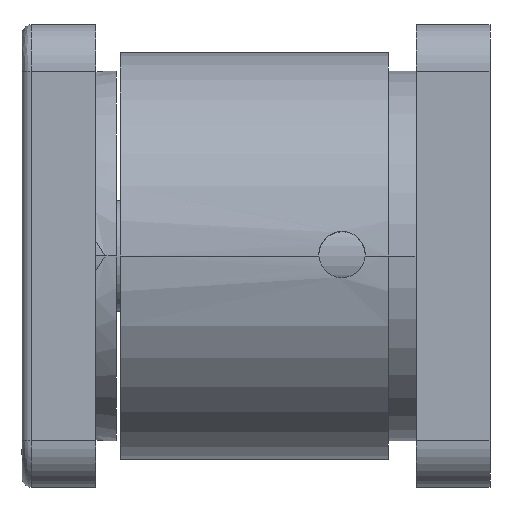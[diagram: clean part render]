
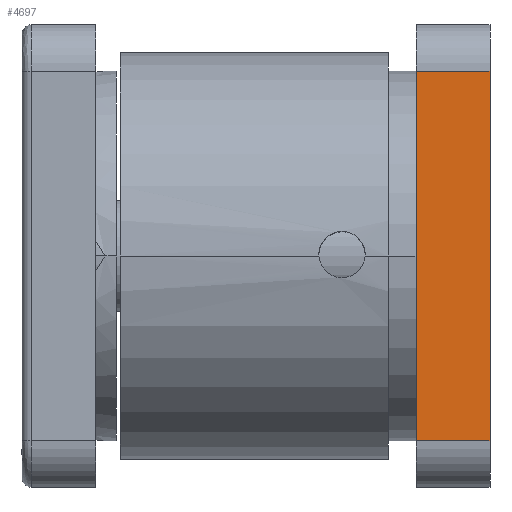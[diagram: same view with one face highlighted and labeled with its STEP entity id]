
A CAD part, left-side view. The second image highlights one B-rep face of the part: STEP entity #4697.
In plain terms, the highlighted planar face has unit normal (1, 0, 0).
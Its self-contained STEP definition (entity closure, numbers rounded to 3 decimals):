
#90 = CARTESIAN_POINT ( 'NONE',  ( -12.5, 2., 12.5 ) ) ;
#531 = LINE ( 'NONE', #944, #750 ) ;
#611 = CARTESIAN_POINT ( 'NONE',  ( -12.5, -2., 10. ) ) ;
#667 = VERTEX_POINT ( 'NONE', #2738 ) ;
#745 = CARTESIAN_POINT ( 'NONE',  ( -12.5, 2., 10. ) ) ;
#750 = VECTOR ( 'NONE', #5451, 1000. ) ;
#896 = CARTESIAN_POINT ( 'NONE',  ( -12.5, 2., -10. ) ) ;
#944 = CARTESIAN_POINT ( 'NONE',  ( -12.5, 2., -12.5 ) ) ;
#1009 = ORIENTED_EDGE ( 'NONE', *, *, #2480, .T. ) ;
#1221 = VECTOR ( 'NONE', #1734, 1000. ) ;
#1612 = PLANE ( 'NONE',  #2637 ) ;
#1714 = VERTEX_POINT ( 'NONE', #745 ) ;
#1734 = DIRECTION ( 'NONE',  ( 0., -1., 0. ) ) ;
#1943 = EDGE_CURVE ( 'NONE', #1714, #4667, #531, .T. ) ;
#2093 = DIRECTION ( 'NONE',  ( 1., 0., 0. ) ) ;
#2112 = EDGE_CURVE ( 'NONE', #3222, #667, #4167, .T. ) ;
#2226 = CARTESIAN_POINT ( 'NONE',  ( -12.5, -2., 12.5 ) ) ;
#2480 = EDGE_CURVE ( 'NONE', #1714, #3222, #3864, .T. ) ;
#2567 = DIRECTION ( 'NONE',  ( 0., 0., -1. ) ) ;
#2637 = AXIS2_PLACEMENT_3D ( 'NONE', #90, #2093, #2567 ) ;
#2728 = EDGE_CURVE ( 'NONE', #667, #4667, #3396, .T. ) ;
#2738 = CARTESIAN_POINT ( 'NONE',  ( -12.5, -2., -10. ) ) ;
#3222 = VERTEX_POINT ( 'NONE', #611 ) ;
#3319 = ORIENTED_EDGE ( 'NONE', *, *, #2728, .T. ) ;
#3396 = LINE ( 'NONE', #896, #3623 ) ;
#3623 = VECTOR ( 'NONE', #5871, 1000. ) ;
#3701 = ORIENTED_EDGE ( 'NONE', *, *, #2112, .T. ) ;
#3864 = LINE ( 'NONE', #6225, #1221 ) ;
#4167 = LINE ( 'NONE', #2226, #5805 ) ;
#4210 = DIRECTION ( 'NONE',  ( 0., 0., -1. ) ) ;
#4667 = VERTEX_POINT ( 'NONE', #6431 ) ;
#4697 = ADVANCED_FACE ( 'NONE', ( #5438 ), #1612, .T. ) ;
#5438 = FACE_OUTER_BOUND ( 'NONE', #5902, .T. ) ;
#5451 = DIRECTION ( 'NONE',  ( 0., 0., -1. ) ) ;
#5805 = VECTOR ( 'NONE', #4210, 1000. ) ;
#5871 = DIRECTION ( 'NONE',  ( 0., 1., 0. ) ) ;
#5902 = EDGE_LOOP ( 'NONE', ( #3319, #6447, #1009, #3701 ) ) ;
#6225 = CARTESIAN_POINT ( 'NONE',  ( -12.5, 2., 10. ) ) ;
#6431 = CARTESIAN_POINT ( 'NONE',  ( -12.5, 2., -10. ) ) ;
#6447 = ORIENTED_EDGE ( 'NONE', *, *, #1943, .F. ) ;
